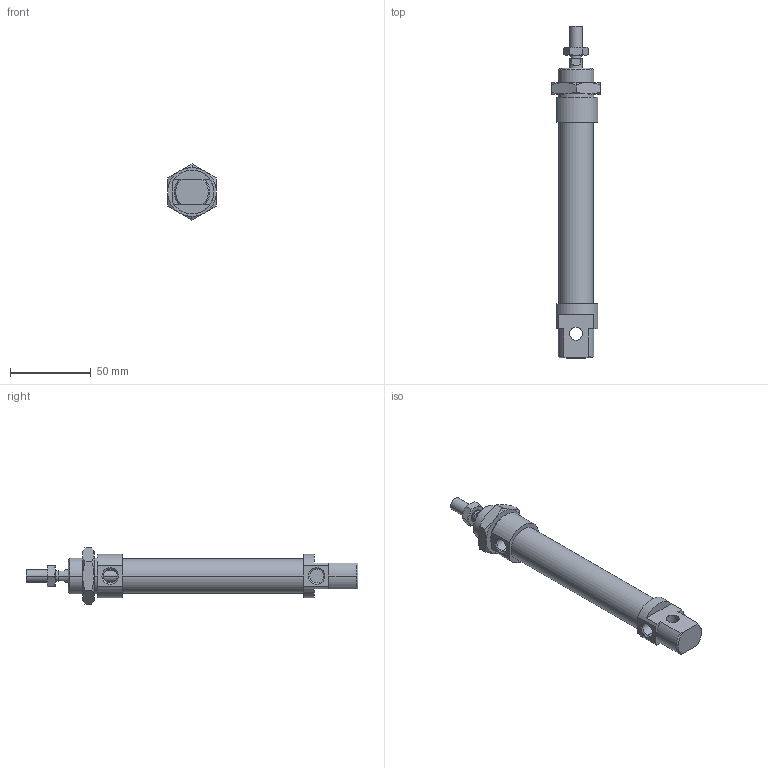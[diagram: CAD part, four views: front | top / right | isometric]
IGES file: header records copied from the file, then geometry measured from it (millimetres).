
Global section: file name: No Iges File Name specified; native system: AutoDesk Inventor R6.0; preprocessor: AutoDesk Inventor Iges Exporter R6.0; author: No Author specified; organization: No Organization specified; date: 20030407.191324; units: millimetre
Bounding box: 30 x 205 x 34.64 mm (x, y, z)
Volume: 70830.9 mm3; surface area: 23296.5 mm2
Topology: 4 solids, 4 shells, 124 faces, 281 edges, 170 vertices
Faces by surface type: plane 41, cone 38, bspline 21, cylinder 18, revolution 6
